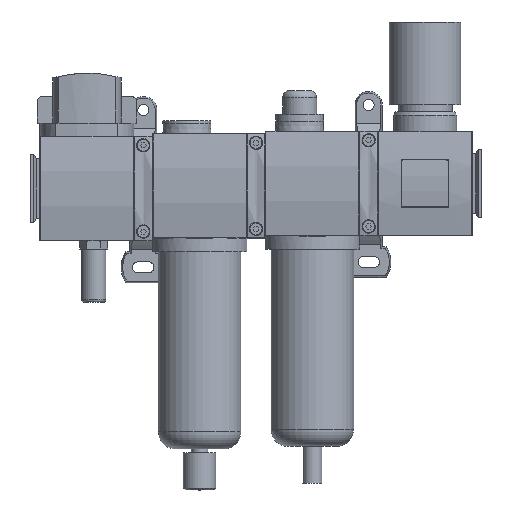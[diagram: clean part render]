
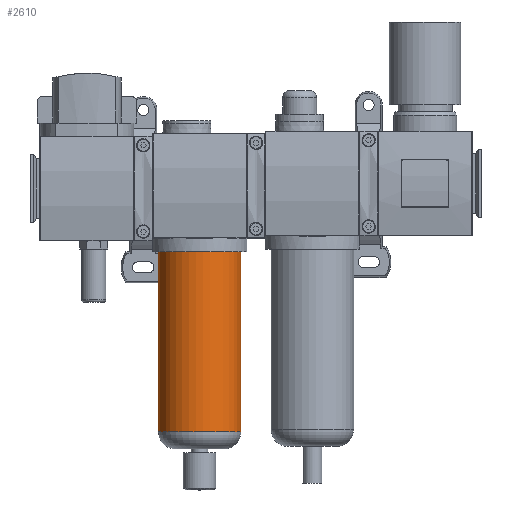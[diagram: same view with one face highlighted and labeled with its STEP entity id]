
A CAD part, top view. The second image highlights one B-rep face of the part: STEP entity #2610.
In plain terms, the highlighted cylindrical face has radius 24.25 mm (diameter 48.5 mm), a full revolution.
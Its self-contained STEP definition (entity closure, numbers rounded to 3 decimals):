
#2610 = ADVANCED_FACE( '', ( #5285, #5286 ), #5287, .T. );
#5285 = FACE_OUTER_BOUND( '', #8102, .T. );
#5286 = FACE_OUTER_BOUND( '', #8103, .T. );
#5287 = CYLINDRICAL_SURFACE( '', #8104, 24.25 );
#8102 = EDGE_LOOP( '', ( #14254 ) );
#8103 = EDGE_LOOP( '', ( #14255 ) );
#8104 = AXIS2_PLACEMENT_3D( '', #14256, #14257, #14258 );
#14254 = ORIENTED_EDGE( '', *, *, #18296, .F. );
#14255 = ORIENTED_EDGE( '', *, *, #18583, .T. );
#14256 = CARTESIAN_POINT( '', ( 0., -115.5, 0. ) );
#14257 = DIRECTION( '', ( 0., 1., 0. ) );
#14258 = DIRECTION( '', ( 0., 0., -1. ) );
#18296 = EDGE_CURVE( '', #22325, #22325, #22326, .T. );
#18583 = EDGE_CURVE( '', #22673, #22673, #22674, .T. );
#22325 = VERTEX_POINT( '', #28383 );
#22326 = CIRCLE( '', #28384, 24.25 );
#22673 = VERTEX_POINT( '', #28892 );
#22674 = CIRCLE( '', #28893, 24.25 );
#28383 = CARTESIAN_POINT( '', ( 0., -105.5, -24.25 ) );
#28384 = AXIS2_PLACEMENT_3D( '', #31497, #31498, #31499 );
#28892 = CARTESIAN_POINT( '', ( 0., 0., -24.25 ) );
#28893 = AXIS2_PLACEMENT_3D( '', #31712, #31713, #31714 );
#31497 = CARTESIAN_POINT( '', ( 0., -105.5, 0. ) );
#31498 = DIRECTION( '', ( 0., -1., 0. ) );
#31499 = DIRECTION( '', ( 0., 0., -1. ) );
#31712 = CARTESIAN_POINT( '', ( 0., 0., 0. ) );
#31713 = DIRECTION( '', ( 0., -1., 0. ) );
#31714 = DIRECTION( '', ( 0., 0., -1. ) );
